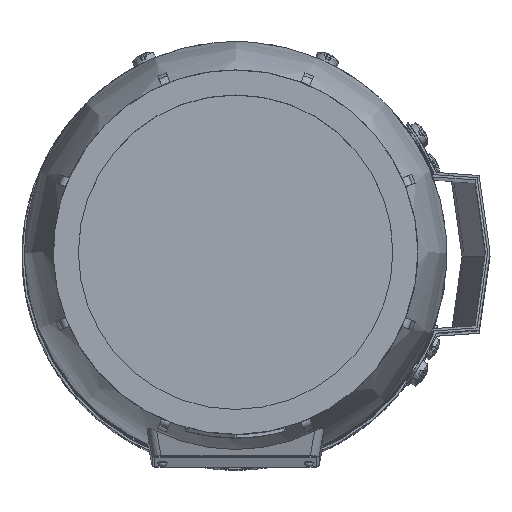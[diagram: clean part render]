
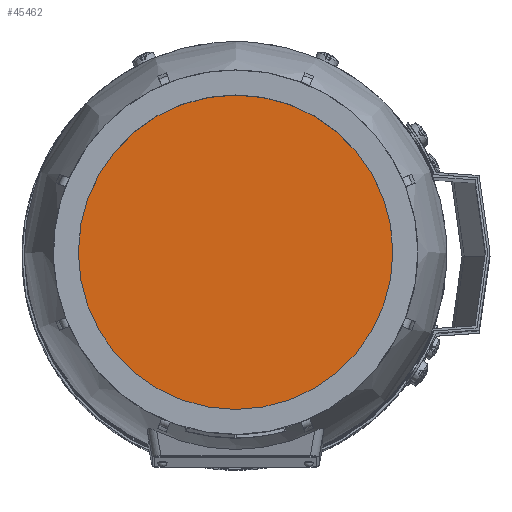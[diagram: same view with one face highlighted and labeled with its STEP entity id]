
A CAD part, top view. The second image highlights one B-rep face of the part: STEP entity #45462.
In plain terms, the highlighted planar face has unit normal (0, 0, 1) as drawn and (0, 1, 0) by its records, which use the part's own axes.
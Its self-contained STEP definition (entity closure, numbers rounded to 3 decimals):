
#9541=ORIENTED_EDGE('',*,*,#23279,.F.);
#23279=EDGE_CURVE('',#30148,#30148,#34775,.T.);
#30148=VERTEX_POINT('',#65610);
#34775=CIRCLE('',#47950,67.736);
#36851=EDGE_LOOP('',(#9541));
#40159=FACE_BOUND('',#36851,.T.);
#43485=PLANE('',#47949);
#45462=ADVANCED_FACE('',(#40159),#43485,.F.);
#47949=AXIS2_PLACEMENT_3D('',#65608,#52441,#52442);
#47950=AXIS2_PLACEMENT_3D('',#65609,#52443,#52444);
#52441=DIRECTION('',(0.,-1.,0.));
#52442=DIRECTION('',(0.,0.,-1.));
#52443=DIRECTION('',(0.,-1.,0.));
#52444=DIRECTION('',(0.,0.,-1.));
#65608=CARTESIAN_POINT('',(0.,154.,0.));
#65609=CARTESIAN_POINT('',(0.,154.,0.));
#65610=CARTESIAN_POINT('',(0.,154.,-67.736));
